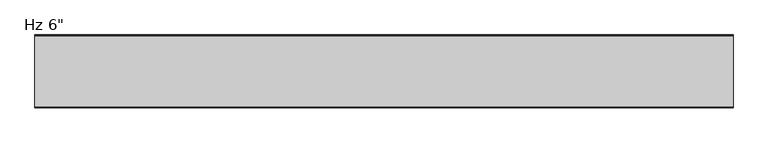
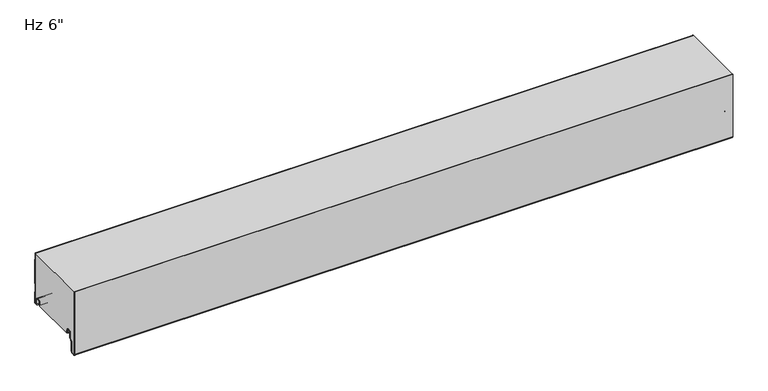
"""IFC4 building model written with IfcOpenShell, lengths in millimetres: plate geometry."""

from ifc_helpers import new_model, si_unit, point, frame, frame_2d, origin, place, context, project, spatial, polyline, circle_curve, trimmed, segment, composite_curve, outline, extrude, source, transform, mapped, element, save
from ifc_brep_helpers import plane_surface, cylinder_surface, revolved_surface, advanced_brep


def plate_e50692ed(model_context):
    return source(origin(), model_context, "Body", "SolidModel", [
        advanced_brep(
        [(-730.0, -17.0015159, 2.0313088), (-730.0, -18.0015191, 1.0313116), (-730.0, -19.0015105, 2.0313088), (-730.0, -19.0015105, 6.0315125), (-730.0, -18.0015159, 6.0315125), (-730.0, -18.0015159, 8.7237223), (-730.0, -14.7015202, 12.023718), (-730.0, -10.301529, 12.023718), (-730.0, -7.0015335, 8.7237225), (-730.0, -7.0015335, -1.6962564), (-730.0, -5.2315393, -3.4662506), (-730.0, -0.9999916, -3.4662506), (-730.0, -0.9999916, 21.034026), (-730.0, -2.2002307, 22.4196686), (-730.0, -2.2002307, 41.7948349), (-730.0, -1.0, 43.1804679), (-730.0, -1.0, 97.2338833), (-730.0, -2.2002307, 98.6195162), (-730.0, -2.2002307, 114.0), (-730.0, -1.2002307, 114.0), (-730.0, -1.2002307, 98.9923967), (-730.0, -0.3417885, 98.001349), (-730.0, 0.0, 97.0847321), (-730.0, 0.0, 43.329619), (-730.0, -0.3417885, 42.4130021), (-730.0, -1.2002307, 41.4219545), (-730.0, -1.2002307, 22.7925491), (-730.0, -0.3417885, 21.8015014), (-730.0, 0.0, 20.8847931), (-730.0, 8.4e-06, -3.0662545), (-730.0, -1.3999878, -4.4662506), (-730.0, -5.2315393, -4.4662506), (-730.0, -8.0015335, -1.6962564), (-730.0, -8.0015335, 8.7237225), (-730.0, -10.301529, 11.023718), (-730.0, -14.7015202, 11.023718), (-730.0, -17.0015159, 8.7237223), (730.0, -17.0015159, 2.0313088), (730.0, -17.0015159, 8.7237223), (730.0, -14.7015202, 11.023718), (730.0, -10.301529, 11.023718), (730.0, -8.0015335, 8.7237225), (730.0, -8.0015335, -1.6962564), (730.0, -5.2315393, -4.4662506), (730.0, -1.3999878, -4.4662506), (730.0, 8.4e-06, -3.0662545), (730.0, 8.4e-06, 20.8848845), (730.0, -0.3417885, 21.8015014), (730.0, -1.2002307, 22.7925491), (730.0, -1.2002307, 41.4219545), (730.0, -0.3417885, 42.4130021), (730.0, 0.0, 43.329619), (730.0, 0.0, 97.0847321), (730.0, -0.3417885, 98.001349), (730.0, -1.2002307, 98.9923967), (730.0, -1.2002307, 114.0), (730.0, -2.2002307, 114.0), (730.0, -2.2002307, 98.6195162), (730.0, -1.0, 97.2338833), (730.0, -1.0, 43.1804679), (730.0, -2.2002307, 41.7948349), (730.0, -2.2002307, 22.4196686), (730.0, -0.9999916, 21.034026), (730.0, -0.9999916, -3.4662506), (730.0, -5.2315393, -3.4662506), (730.0, -7.0015335, -1.6962564), (730.0, -7.0015335, 8.7237225), (730.0, -10.301529, 12.023718), (730.0, -14.7015202, 12.023718), (730.0, -18.0015159, 8.7237223), (730.0, -18.0015159, 6.0315125), (730.0, -19.0015105, 6.0315125), (730.0, -19.0015105, 2.0313088), (730.0, -18.0015192, 1.0313116)],
        [
            (0, 1, circle_curve(frame((-730.0, -18.0015132, 2.0313088), z_axis=(-1.0, 0.0, 0.0), x_axis=(0.0, 0.0, 1.0)), 0.9999973)),
            (1, 2, circle_curve(frame((-730.0, -18.0015133, 2.0313088), z_axis=(-1.0, 0.0, 0.0), x_axis=(0.0, 0.0, 1.0)), 0.9999972)),
            (2, 3),
            (3, 4),
            (4, 5),
            (5, 6, circle_curve(frame((-730.0, -14.7015202, 8.7237223), z_axis=(-1.0, 0.0, 0.0), x_axis=(0.0, 0.0, 1.0)), 3.2999957)),
            (6, 7),
            (7, 8, circle_curve(frame((-730.0, -10.301529, 8.7237225), z_axis=(-1.0, 0.0, 0.0), x_axis=(0.0, 0.0, 1.0)), 3.2999955)),
            (8, 9),
            (9, 10, circle_curve(frame((-730.0, -5.2315393, -1.6962564), z_axis=(1.0, 0.0, 0.0), x_axis=(0.0, 0.0, 1.0)), 1.7699942)),
            (10, 11),
            (11, 12),
            (12, 13),
            (13, 14),
            (14, 15),
            (15, 16),
            (16, 17),
            (17, 18),
            (18, 19),
            (19, 20),
            (20, 21),
            (21, 22, circle_curve(frame((-730.0, -1.3999972, 97.0847321), z_axis=(-1.0, 0.0, 0.0), x_axis=(0.0, 0.0, 1.0)), 1.3999972)),
            (22, 23),
            (23, 24, circle_curve(frame((-730.0, -1.3999972, 43.329619), z_axis=(-1.0, 0.0, 0.0), x_axis=(0.0, 0.0, 1.0)), 1.3999972)),
            (24, 25),
            (25, 26),
            (26, 27),
            (27, 28, circle_curve(frame((-730.0, -1.3999972, 20.8848845), z_axis=(-1.0, 0.0, 0.0), x_axis=(0.0, 0.0, 1.0)), 1.3999972)),
            (28, 29),
            (29, 30, circle_curve(frame((-730.0, -1.3999878, -3.0662545), z_axis=(-1.0, 0.0, 0.0), x_axis=(0.0, 0.0, 1.0)), 1.3999962)),
            (30, 31),
            (31, 32, circle_curve(frame((-730.0, -5.2315393, -1.6962564), z_axis=(-1.0, 0.0, 0.0), x_axis=(0.0, 0.0, 1.0)), 2.7699942)),
            (32, 33),
            (33, 34, circle_curve(frame((-730.0, -10.301529, 8.7237225), z_axis=(1.0, 0.0, 0.0), x_axis=(0.0, 0.0, 1.0)), 2.2999955)),
            (34, 35),
            (35, 36, circle_curve(frame((-730.0, -14.7015202, 8.7237223), z_axis=(1.0, 0.0, 0.0), x_axis=(0.0, 0.0, 1.0)), 2.2999957)),
            (36, 0),
            (37, 38),
            (38, 39, circle_curve(frame((730.0, -14.7015202, 8.7237223), z_axis=(-1.0, 0.0, 0.0), x_axis=(0.0, 0.0, 1.0)), 2.2999957)),
            (39, 40),
            (40, 41, circle_curve(frame((730.0, -10.301529, 8.7237225), z_axis=(-1.0, 0.0, 0.0), x_axis=(0.0, 0.0, 1.0)), 2.2999955)),
            (41, 42),
            (42, 43, circle_curve(frame((730.0, -5.2315393, -1.6962564), z_axis=(1.0, 0.0, 0.0), x_axis=(0.0, 0.0, 1.0)), 2.7699942)),
            (43, 44),
            (44, 45, circle_curve(frame((730.0, -1.3999878, -3.0662545), z_axis=(1.0, 0.0, 0.0), x_axis=(0.0, 0.0, 1.0)), 1.3999962)),
            (45, 46),
            (46, 47, circle_curve(frame((730.0, -1.3999972, 20.8848845), z_axis=(1.0, 0.0, 0.0), x_axis=(0.0, 0.0, 1.0)), 1.3999972)),
            (47, 48),
            (48, 49),
            (49, 50),
            (50, 51, circle_curve(frame((730.0, -1.3999972, 43.329619), z_axis=(1.0, 0.0, 0.0), x_axis=(0.0, 0.0, 1.0)), 1.3999972)),
            (51, 52),
            (52, 53, circle_curve(frame((730.0, -1.3999972, 97.0847321), z_axis=(1.0, 0.0, 0.0), x_axis=(0.0, 0.0, 1.0)), 1.3999972)),
            (53, 54),
            (54, 55),
            (55, 56),
            (56, 57),
            (57, 58),
            (58, 59),
            (59, 60),
            (60, 61),
            (61, 62),
            (62, 63),
            (63, 64),
            (64, 65, circle_curve(frame((730.0, -5.2315393, -1.6962564), z_axis=(-1.0, 0.0, 0.0), x_axis=(0.0, 0.0, 1.0)), 1.7699942)),
            (65, 66),
            (66, 67, circle_curve(frame((730.0, -10.301529, 8.7237225), z_axis=(1.0, 0.0, 0.0), x_axis=(0.0, 0.0, 1.0)), 3.2999955)),
            (67, 68),
            (68, 69, circle_curve(frame((730.0, -14.7015202, 8.7237223), z_axis=(1.0, 0.0, 0.0), x_axis=(0.0, 0.0, 1.0)), 3.2999957)),
            (69, 70),
            (70, 71),
            (71, 72),
            (72, 73, circle_curve(frame((730.0, -18.0015133, 2.0313088), z_axis=(1.0, 0.0, 0.0), x_axis=(0.0, 0.0, 1.0)), 0.9999972)),
            (73, 37, circle_curve(frame((730.0, -18.0015132, 2.0313088), z_axis=(1.0, 0.0, 0.0), x_axis=(0.0, 0.0, 1.0)), 0.9999973)),
            (18, 56),
            (55, 19),
            (36, 38),
            (37, 0),
            (35, 39),
            (34, 40),
            (33, 41),
            (32, 42),
            (31, 43),
            (30, 44),
            (29, 45),
            (28, 46),
            (27, 47),
            (26, 48),
            (25, 49),
            (24, 50),
            (23, 51),
            (22, 52),
            (21, 53),
            (20, 54),
            (17, 57),
            (16, 58),
            (15, 59),
            (14, 60),
            (13, 61),
            (12, 62),
            (11, 63),
            (10, 64),
            (9, 65),
            (8, 66),
            (7, 67),
            (6, 68),
            (5, 69),
            (4, 70),
            (3, 71),
            (2, 72),
            (1, 73),
        ],
        [
            plane_surface(frame((-730.0, 0.0, 381.0), z_axis=(-1.0, 0.0, 0.0), x_axis=(0.0, 1.0, 0.0))),
            plane_surface(frame((730.0, 0.0, 381.0), z_axis=(1.0, 0.0, 0.0), x_axis=(0.0, 1.0, 0.0))),
            plane_surface(frame((730.0, 10.0, 114.0), z_axis=(0.0, 0.0, 1.0), x_axis=(-1.0, 0.0, 0.0))),
            plane_surface(frame((-730.0, -17.0015159, 2.0313088), z_axis=(0.0, 1.0, 0.0), x_axis=(1.0, 0.0, 0.0))),
            revolved_surface(polyline([(730.0, -14.7015202, 11.023718), (-730.0, -14.7015202, 11.023718)]), (-730.0, -14.7015202, 8.7237223), (1.0, 0.0, 0.0)),
            plane_surface(frame((-730.0, -14.7015202, 11.023718), z_axis=(0.0, 0.0, -1.0), x_axis=(1.0, 0.0, 0.0))),
            revolved_surface(polyline([(730.0, -10.301529, 11.023717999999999), (-730.0, -10.301529, 11.023717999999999)]), (-730.0, -10.301529, 8.7237225), (1.0, 0.0, 0.0)),
            plane_surface(frame((-730.0, -8.0015335, 8.7237225), z_axis=(0.0, -1.0, 0.0), x_axis=(1.0, 0.0, 0.0))),
            cylinder_surface(frame((-730.0, -5.2315393, -1.6962564), z_axis=(-1.0, 0.0, 0.0), x_axis=(0.0, 0.0, 1.0)), 2.7699942),
            plane_surface(frame((-730.0, -5.2315393, -4.4662506), z_axis=(0.0, 0.0, -1.0), x_axis=(1.0, 0.0, 0.0))),
            cylinder_surface(frame((-730.0, -1.3999878, -3.0662545), z_axis=(-1.0, 0.0, 0.0), x_axis=(0.0, 0.0, 1.0)), 1.3999962),
            plane_surface(frame((-730.0, 8.4e-06, -3.0662545), z_axis=(0.0, 1.0, 0.0), x_axis=(1.0, 0.0, 0.0))),
            cylinder_surface(frame((-730.0, -1.3999972, 20.8848845), z_axis=(-1.0, 0.0, 0.0), x_axis=(0.0, 0.0, 1.0)), 1.3999972),
            plane_surface(frame((-730.0, -0.3417885, 21.8015014), z_axis=(0.0, 0.755864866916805, 0.6547276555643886), x_axis=(1.0, 0.0, 0.0))),
            plane_surface(frame((-730.0, -1.2002307, 32.1072518), z_axis=(0.0, 1.0, 0.0), x_axis=(1.0, 0.0, 0.0))),
            plane_surface(frame((-730.0, -1.2002307, 41.4219545), z_axis=(0.0, 0.755864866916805, -0.6547276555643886), x_axis=(1.0, 0.0, 0.0))),
            cylinder_surface(frame((-730.0, -1.3999972, 43.329619), z_axis=(-1.0, 0.0, 0.0), x_axis=(0.0, 0.0, 1.0)), 1.3999972),
            plane_surface(frame((-730.0, 0.0, 43.329619), z_axis=(0.0, 1.0, 0.0), x_axis=(1.0, 0.0, 0.0))),
            cylinder_surface(frame((-730.0, -1.3999972, 97.0847321), z_axis=(-1.0, 0.0, 0.0), x_axis=(0.0, 0.0, 1.0)), 1.3999972),
            plane_surface(frame((-730.0, -0.3417885, 98.001349), z_axis=(0.0, 0.755864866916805, 0.6547276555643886), x_axis=(1.0, 0.0, 0.0))),
            plane_surface(frame((-730.0, -1.2002307, 108.3070994), z_axis=(0.0, 1.0, 0.0), x_axis=(1.0, 0.0, 0.0))),
            plane_surface(frame((-730.0, -2.2002307, 117.9946825), z_axis=(0.0, -1.0, 0.0), x_axis=(1.0, 0.0, 0.0))),
            plane_surface(frame((-730.0, -2.2002307, 98.6195162), z_axis=(0.0, -0.755864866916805, -0.6547276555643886), x_axis=(1.0, 0.0, 0.0))),
            plane_surface(frame((-730.0, -1.0, 97.2338833), z_axis=(0.0, -1.0, 0.0), x_axis=(1.0, 0.0, 0.0))),
            plane_surface(frame((-730.0, -1.0, 43.1804679), z_axis=(0.0, -0.755864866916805, 0.6547276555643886), x_axis=(1.0, 0.0, 0.0))),
            plane_surface(frame((-730.0, -2.2002307, 41.7948349), z_axis=(0.0, -1.0, 0.0), x_axis=(1.0, 0.0, 0.0))),
            plane_surface(frame((-730.0, -2.2002307, 22.4196686), z_axis=(0.0, -0.755864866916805, -0.6547276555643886), x_axis=(1.0, 0.0, 0.0))),
            plane_surface(frame((-730.0, -0.9999916, 21.034026), z_axis=(0.0, -1.0, 0.0), x_axis=(1.0, 0.0, 0.0))),
            plane_surface(frame((-730.0, -0.9999916, -3.4662506), z_axis=(0.0, 0.0, 1.0), x_axis=(1.0, 0.0, 0.0))),
            revolved_surface(polyline([(730.0, -5.2315393, 0.07373779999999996), (-730.0, -5.2315393, 0.07373779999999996)]), (-730.0, -5.2315393, -1.6962564), (1.0, 0.0, 0.0)),
            plane_surface(frame((-730.0, -7.0015335, -1.6962564), z_axis=(0.0, 1.0, 0.0), x_axis=(1.0, 0.0, 0.0))),
            cylinder_surface(frame((-730.0, -10.301529, 8.7237225), z_axis=(-1.0, 0.0, 0.0), x_axis=(0.0, 0.0, 1.0)), 3.2999955),
            plane_surface(frame((-730.0, -10.301529, 12.023718), z_axis=(0.0, 0.0, 1.0), x_axis=(1.0, 0.0, 0.0))),
            cylinder_surface(frame((-730.0, -14.7015202, 8.7237223), z_axis=(-1.0, 0.0, 0.0), x_axis=(0.0, 0.0, 1.0)), 3.2999957),
            plane_surface(frame((-730.0, -18.0015159, 8.7237223), z_axis=(0.0, -1.0, 0.0), x_axis=(1.0, 0.0, 0.0))),
            plane_surface(frame((-730.0, -18.0015159, 6.0315125), z_axis=(0.0, 0.0, 1.0), x_axis=(1.0, 0.0, 0.0))),
            plane_surface(frame((-730.0, -19.0015105, 6.0315125), z_axis=(0.0, -1.0, 0.0), x_axis=(1.0, 0.0, 0.0))),
            cylinder_surface(frame((-730.0, -18.0015133, 2.0313088), z_axis=(-1.0, 0.0, 0.0), x_axis=(0.0, 0.0, 1.0)), 0.9999972),
            cylinder_surface(frame((-730.0, -18.0015132, 2.0313088), z_axis=(-1.0, 0.0, 0.0), x_axis=(0.0, 0.0, 1.0)), 0.9999973),
        ],
        [
            (0, [[1, 2, 3, 4, 5, 6, 7, 8, 9, 10, 11, 12, 13, 14, 15, 16, 17, 18, 19, 20, 21, 22, 23, 24, 25, 26, 27, 28, 29, 30, 31, 32, 33, 34, 35, 36, 37]]),
            (1, [[38, 39, 40, 41, 42, 43, 44, 45, 46, 47, 48, 49, 50, 51, 52, 53, 54, 55, 56, 57, 58, 59, 60, 61, 62, 63, 64, 65, 66, 67, 68, 69, 70, 71, 72, 73, 74]]),
            (2, [[75, -56, 76, -19]]),
            (3, [[77, -38, 78, -37]]),
            (4, [[79, -39, -77, -36]]),
            (5, [[80, -40, -79, -35]]),
            (6, [[81, -41, -80, -34]]),
            (7, [[82, -42, -81, -33]]),
            (8, [[83, -43, -82, -32]]),
            (9, [[84, -44, -83, -31]]),
            (10, [[85, -45, -84, -30]]),
            (11, [[86, -46, -85, -29]]),
            (12, [[87, -47, -86, -28]]),
            (13, [[88, -48, -87, -27]]),
            (14, [[89, -49, -88, -26]]),
            (15, [[90, -50, -89, -25]]),
            (16, [[91, -51, -90, -24]]),
            (17, [[92, -52, -91, -23]]),
            (18, [[93, -53, -92, -22]]),
            (19, [[94, -54, -93, -21]]),
            (20, [[-20, -76, -55, -94]]),
            (21, [[-57, -75, -18, 95]]),
            (22, [[96, -58, -95, -17]]),
            (23, [[97, -59, -96, -16]]),
            (24, [[98, -60, -97, -15]]),
            (25, [[99, -61, -98, -14]]),
            (26, [[100, -62, -99, -13]]),
            (27, [[101, -63, -100, -12]]),
            (28, [[102, -64, -101, -11]]),
            (29, [[103, -65, -102, -10]]),
            (30, [[104, -66, -103, -9]]),
            (31, [[105, -67, -104, -8]]),
            (32, [[106, -68, -105, -7]]),
            (33, [[107, -69, -106, -6]]),
            (34, [[108, -70, -107, -5]]),
            (35, [[109, -71, -108, -4]]),
            (36, [[110, -72, -109, -3]]),
            (37, [[111, -73, -110, -2]]),
            (38, [[-78, -74, -111, -1]]),
        ],
    ),
        extrude(outline(composite_curve([segment(trimmed(circle_curve(frame_2d((-148.8296795, -32.4521105)), 3.5702393), [point((-148.5184091, -36.0087549))], [point((-152.3999188, -32.4521083))], False, "CARTESIAN"), True, "CONTINUOUS"), segment(polyline([(-152.3999188, -32.4521083), (-152.3998251, 114.0), (-151.3993606, 114.0), (-151.3993606, -32.509446)]), True, "CONTINUOUS"), segment(trimmed(circle_curve(frame_2d((-148.8297607, -32.4521176)), 2.5702393), [point((-151.3993606, -32.509446))], [point((-148.6056751, -35.0125699))], True, "CARTESIAN"), True, "CONTINUOUS"), segment(polyline([(-148.6056751, -35.0125699), (-143.6238542, -34.5765709)]), True, "CONTINUOUS"), segment(trimmed(circle_curve(frame_2d((-144.1052448, -31.9198392)), 2.6999926), [point((-143.6238542, -34.5765709))], [point((-141.4052522, -31.9198392))], True, "CARTESIAN"), True, "CONTINUOUS"), segment(polyline([(-141.4052522, -31.9198392), (-141.4052522, -9.8247096), (-135.9031811, -4.3226385)]), True, "CONTINUOUS"), segment(trimmed(circle_curve(frame_2d((-137.1052588, -3.1205608)), 1.6999946), [point((-135.9031811, -4.3226385))], [point((-135.4052642, -3.1205608))], True, "CARTESIAN"), True, "CONTINUOUS"), segment(polyline([(-135.4052642, -3.1205608), (-135.4052642, 8.6903283)]), True, "CONTINUOUS"), segment(trimmed(circle_curve(frame_2d((-132.0552689, 8.6903283)), 3.3499953), [point((-135.4052642, 8.6903283))], [point((-132.0552689, 12.0403236))], False, "CARTESIAN"), True, "CONTINUOUS"), segment(polyline([(-132.0552689, 12.0403236), (-127.6552777, 12.0403236)]), True, "CONTINUOUS"), segment(trimmed(circle_curve(frame_2d((-127.6552777, 8.6903283)), 3.3499953), [point((-127.6552777, 12.0403236))], [point((-124.3052824, 8.6903283))], False, "CARTESIAN"), True, "CONTINUOUS"), segment(polyline([(-124.3052824, 8.6903283), (-124.3052824, 5.9912173), (-122.9068035, 5.9912173), (-122.9068035, 2.2328239)]), True, "CONTINUOUS"), segment(trimmed(circle_curve(frame_2d((-124.1068002, 2.2313092)), 1.1999976), [point((-122.9068035, 2.2328239))], [point((-124.0762782, 1.0316999))], False, "CARTESIAN"), True, "CONTINUOUS"), segment(trimmed(circle_curve(frame_2d((-124.1068002, 2.2313092)), 1.1999976), [point((-124.0762782, 1.0316999))], [point((-125.3052824, 2.1710221))], False, "CARTESIAN"), True, "CONTINUOUS"), segment(polyline([(-125.3052824, 2.1710221), (-125.3052824, 8.6903283)]), True, "CONTINUOUS"), segment(trimmed(circle_curve(frame_2d((-127.6552777, 8.6903283)), 2.3499953), [point((-125.3052824, 8.6903283))], [point((-127.6552777, 11.0403236))], True, "CARTESIAN"), True, "CONTINUOUS"), segment(polyline([(-127.6552777, 11.0403236), (-132.0552689, 11.0403236)]), True, "CONTINUOUS"), segment(trimmed(circle_curve(frame_2d((-132.0552689, 8.6903283)), 2.3499953), [point((-132.0552689, 11.0403236))], [point((-134.4052642, 8.6903283))], True, "CARTESIAN"), True, "CONTINUOUS"), segment(polyline([(-134.4052642, 8.6903283), (-134.4052642, -3.1205608)]), True, "CONTINUOUS"), segment(trimmed(circle_curve(frame_2d((-137.1052588, -3.1205608)), 2.6999946), [point((-134.4052642, -3.1205608))], [point((-135.1960743, -5.0297453))], False, "CARTESIAN"), True, "CONTINUOUS"), segment(polyline([(-135.1960743, -5.0297453), (-140.0244918, -9.8581627)]), True, "CONTINUOUS"), segment(trimmed(circle_curve(frame_2d((-139.1052548, -10.7773997)), 1.2999974), [point((-140.0244918, -9.8581627))], [point((-140.4052522, -10.7773997))], True, "CARTESIAN"), True, "CONTINUOUS"), segment(polyline([(-140.4052522, -10.7773997), (-140.4052522, -31.9198392)]), True, "CONTINUOUS"), segment(trimmed(circle_curve(frame_2d((-144.1052448, -31.9198392)), 3.6999926), [point((-140.4052522, -31.9198392))], [point((-143.4944437, -35.5690675))], False, "CARTESIAN"), True, "CONTINUOUS"), segment(polyline([(-143.4944437, -35.5690675), (-148.5184091, -36.0087549)]), True, "CONTINUOUS")], self_intersect=False)), frame((-730.0, 0.0, 0.0), z_axis=(1.0, 0.0, 0.0), x_axis=(0.0, 1.0, 0.0)), (0.0, 0.0, 1.0), 1460.0),
        advanced_brep(
        [(-730.0, -124.070875, 1.0316999), (-730.0, -122.9014003, 2.2328239), (-730.0, -122.9014003, 5.9912173), (-730.0, -124.2998791, 5.9912173), (-730.0, -124.2998791, 8.6903283), (-730.0, -127.6498744, 12.0403236), (-730.0, -132.0498656, 12.0403236), (-730.0, -135.3998609, 8.6903283), (-730.0, -135.3998609, -3.1205608), (-730.0, -135.8977778, -4.3226385), (-730.0, -141.3998489, -9.8247096), (-730.0, -141.3998489, -31.9198392), (-730.0, -143.6184509, -34.5765709), (-730.0, -148.6002718, -35.0125699), (-730.0, -151.3945967, -32.4521176), (-730.0, -151.4, 114.0), (-730.0, -2.2002307, 114.0), (-730.0, -2.2002307, 98.6195163), (-730.0, -1.0, 97.2338833), (-730.0, -1.0, 43.1804679), (-730.0, -2.2002307, 41.794835), (-730.0, -2.2002307, 22.4196687), (-730.0, -0.9999916, 21.034026), (-730.0, -0.9999916, -3.4662506), (-730.0, -5.2315389, -3.4662506), (-730.0, -7.0015331, -1.6962564), (-730.0, -7.0015331, 8.7237222), (-730.0, -10.301529, 12.023718), (-730.0, -14.7015202, 12.023718), (-730.0, -18.0015159, 8.7237223), (-730.0, -18.0015159, 6.0315125), (-730.0, -19.0015105, 6.0315125), (-730.0, -19.0015105, 2.0313089), (-730.0, -18.0015192, 1.0313117), (-730.0, -19.0328308, 0.0), (-730.0, -123.0391751, 0.0), (730.0, -124.070875, 1.0316999), (730.0, -123.0391751, 0.0), (730.0, -19.0328308, 0.0), (730.0, -18.0015192, 1.0313117), (730.0, -19.0015105, 2.0313089), (730.0, -19.0015105, 6.0315125), (730.0, -18.0015159, 6.0315125), (730.0, -18.0015159, 8.7237223), (730.0, -14.7015202, 12.023718), (730.0, -10.301529, 12.023718), (730.0, -7.0015331, 8.7237222), (730.0, -7.0015331, -1.6962564), (730.0, -5.2315389, -3.4662506), (730.0, -0.9999916, -3.4662506), (730.0, -0.9999916, 21.034026), (730.0, -2.2002307, 22.4196687), (730.0, -2.2002307, 41.794835), (730.0, -1.0, 43.1804679), (730.0, -1.0, 97.2338833), (730.0, -2.2002307, 98.6195163), (730.0, -2.2002307, 114.0), (730.0, -151.4, 114.0), (730.0, -151.4, -32.4521176), (730.0, -148.6002718, -35.0125699), (730.0, -143.6184509, -34.5765709), (730.0, -141.3998489, -31.9198392), (730.0, -141.3998489, -9.8247096), (730.0, -135.8977778, -4.3226385), (730.0, -135.3998609, -3.1205608), (730.0, -135.3998609, 8.6903283), (730.0, -132.0498656, 12.0403236), (730.0, -127.6498744, 12.0403236), (730.0, -124.2998791, 8.6903283), (730.0, -124.2998791, 5.9912173), (730.0, -122.9014003, 5.9912173), (730.0, -122.9014003, 2.2328239)],
        [
            (0, 1, circle_curve(frame((-730.0, -124.1013969, 2.2313092), z_axis=(1.0, 0.0, 0.0), x_axis=(0.0, 0.0, -1.0)), 1.1999976)),
            (1, 2),
            (2, 3),
            (3, 4),
            (4, 5, circle_curve(frame((-730.0, -127.6498744, 8.6903283), z_axis=(1.0, 0.0, 0.0), x_axis=(0.0, 0.0, -1.0)), 3.3499953)),
            (5, 6),
            (6, 7, circle_curve(frame((-730.0, -132.0498656, 8.6903283), z_axis=(1.0, 0.0, 0.0), x_axis=(0.0, 0.0, -1.0)), 3.3499953)),
            (7, 8),
            (8, 9, circle_curve(frame((-730.0, -137.0998555, -3.1205608), z_axis=(-1.0, 0.0, 0.0), x_axis=(0.0, 0.0, -1.0)), 1.6999946)),
            (9, 10),
            (10, 11),
            (11, 12, circle_curve(frame((-730.0, -144.0998415, -31.9198392), z_axis=(-1.0, 0.0, 0.0), x_axis=(0.0, 0.0, -1.0)), 2.6999926)),
            (12, 13),
            (13, 14, circle_curve(frame((-730.0, -148.8243575, -32.4521176), z_axis=(-1.0, 0.0, 0.0), x_axis=(0.0, 0.0, -1.0)), 2.5702393)),
            (14, 15),
            (15, 16),
            (16, 17),
            (17, 18),
            (18, 19),
            (19, 20),
            (20, 21),
            (21, 22),
            (22, 23),
            (23, 24),
            (24, 25, circle_curve(frame((-730.0, -5.2315389, -1.6962564), z_axis=(-1.0, 0.0, 0.0), x_axis=(0.0, 0.0, 1.0)), 1.7699942)),
            (25, 26),
            (26, 27, circle_curve(frame((-730.0, -10.301529, 8.7237222), z_axis=(1.0, 0.0, 0.0), x_axis=(0.0, 0.0, 1.0)), 3.2999959)),
            (27, 28),
            (28, 29, circle_curve(frame((-730.0, -14.7015202, 8.7237223), z_axis=(1.0, 0.0, 0.0), x_axis=(0.0, 0.0, 1.0)), 3.2999957)),
            (29, 30),
            (30, 31),
            (31, 32),
            (32, 33, circle_curve(frame((-730.0, -18.0015133, 2.0313089), z_axis=(1.0, 0.0, 0.0), x_axis=(0.0, 0.0, 1.0)), 0.9999972)),
            (33, 34),
            (34, 35),
            (35, 0),
            (36, 37),
            (37, 38),
            (38, 39),
            (39, 40, circle_curve(frame((730.0, -18.0015133, 2.0313089), z_axis=(-1.0, 0.0, 0.0), x_axis=(0.0, 0.0, 1.0)), 0.9999972)),
            (40, 41),
            (41, 42),
            (42, 43),
            (43, 44, circle_curve(frame((730.0, -14.7015202, 8.7237223), z_axis=(-1.0, 0.0, 0.0), x_axis=(0.0, 0.0, 1.0)), 3.2999957)),
            (44, 45),
            (45, 46, circle_curve(frame((730.0, -10.301529, 8.7237222), z_axis=(-1.0, 0.0, 0.0), x_axis=(0.0, 0.0, 1.0)), 3.2999959)),
            (46, 47),
            (47, 48, circle_curve(frame((730.0, -5.2315389, -1.6962564), z_axis=(1.0, 0.0, 0.0), x_axis=(0.0, 0.0, 1.0)), 1.7699942)),
            (48, 49),
            (49, 50),
            (50, 51),
            (51, 52),
            (52, 53),
            (53, 54),
            (54, 55),
            (55, 56),
            (56, 57),
            (57, 58),
            (58, 59, circle_curve(frame((730.0, -148.8243575, -32.4521176), z_axis=(1.0, 0.0, 0.0), x_axis=(0.0, 0.0, -1.0)), 2.5702393)),
            (59, 60),
            (60, 61, circle_curve(frame((730.0, -144.0998415, -31.9198392), z_axis=(1.0, 0.0, 0.0), x_axis=(0.0, 0.0, -1.0)), 2.6999926)),
            (61, 62),
            (62, 63),
            (63, 64, circle_curve(frame((730.0, -137.0998555, -3.1205608), z_axis=(1.0, 0.0, 0.0), x_axis=(0.0, 0.0, -1.0)), 1.6999946)),
            (64, 65),
            (65, 66, circle_curve(frame((730.0, -132.0498656, 8.6903283), z_axis=(-1.0, 0.0, 0.0), x_axis=(0.0, 0.0, -1.0)), 3.3499953)),
            (66, 67),
            (67, 68, circle_curve(frame((730.0, -127.6498744, 8.6903283), z_axis=(-1.0, 0.0, 0.0), x_axis=(0.0, 0.0, -1.0)), 3.3499953)),
            (68, 69),
            (69, 70),
            (70, 71),
            (71, 36, circle_curve(frame((730.0, -124.1013969, 2.2313092), z_axis=(-1.0, 0.0, 0.0), x_axis=(0.0, 0.0, -1.0)), 1.1999976)),
            (35, 37),
            (36, 0),
            (34, 38),
            (57, 15),
            (14, 58),
            (13, 59),
            (12, 60),
            (11, 61),
            (10, 62),
            (9, 63),
            (8, 64),
            (7, 65),
            (6, 66),
            (5, 67),
            (4, 68),
            (3, 69),
            (2, 70),
            (1, 71),
            (56, 16),
            (33, 39),
            (32, 40),
            (31, 41),
            (30, 42),
            (29, 43),
            (28, 44),
            (27, 45),
            (26, 46),
            (25, 47),
            (24, 48),
            (23, 49),
            (22, 50),
            (21, 51),
            (20, 52),
            (19, 53),
            (18, 54),
            (17, 55),
        ],
        [
            plane_surface(frame((-730.0, -151.4, 381.0), z_axis=(-1.0, 0.0, 0.0), x_axis=(0.0, -1.0, 0.0))),
            plane_surface(frame((730.0, -151.4, 381.0), z_axis=(1.0, 0.0, 0.0), x_axis=(0.0, -1.0, 0.0))),
            plane_surface(frame((-730.0, -124.070875, 1.0316999), z_axis=(0.0, -0.7071067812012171, -0.707106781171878), x_axis=(1.0, 0.0, 0.0))),
            plane_surface(frame((-730.0, -123.0391751, 0.0), z_axis=(0.0, 0.0, -1.0), x_axis=(1.0, 0.0, 0.0))),
            plane_surface(frame((-730.0, -151.4, 713.515622), z_axis=(0.0, -1.0, 0.0), x_axis=(1.0, 0.0, 0.0))),
            cylinder_surface(frame((-730.0, -148.8243575, -32.4521176), z_axis=(-1.0, 0.0, 0.0), x_axis=(0.0, 0.0, -1.0)), 2.5702393),
            plane_surface(frame((-730.0, -148.6002718, -35.0125699), z_axis=(0.0, 0.08718474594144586, -0.9961921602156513), x_axis=(1.0, 0.0, 0.0))),
            cylinder_surface(frame((-730.0, -144.0998415, -31.9198392), z_axis=(-1.0, 0.0, 0.0), x_axis=(0.0, 0.0, -1.0)), 2.6999926),
            plane_surface(frame((-730.0, -141.3998489, -31.9198392), z_axis=(0.0, 1.0, 0.0), x_axis=(1.0, 0.0, 0.0))),
            plane_surface(frame((-730.0, -141.3998489, -9.8247096), z_axis=(0.0, 0.7071067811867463, -0.7071067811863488), x_axis=(1.0, 0.0, 0.0))),
            cylinder_surface(frame((-730.0, -137.0998555, -3.1205608), z_axis=(-1.0, 0.0, 0.0), x_axis=(0.0, 0.0, -1.0)), 1.6999946),
            plane_surface(frame((-730.0, -135.3998609, -3.1205608), z_axis=(0.0, 1.0, 0.0), x_axis=(1.0, 0.0, 0.0))),
            revolved_surface(polyline([(730.0, -132.0498656, 5.340332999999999), (-730.0, -132.0498656, 5.340332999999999)]), (-730.0, -132.0498656, 8.6903283), (1.0, 0.0, 0.0)),
            plane_surface(frame((-730.0, -132.0498656, 12.0403236), z_axis=(0.0, 0.0, -1.0), x_axis=(1.0, 0.0, 0.0))),
            revolved_surface(polyline([(730.0, -127.6498744, 5.340332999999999), (-730.0, -127.6498744, 5.340332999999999)]), (-730.0, -127.6498744, 8.6903283), (1.0, 0.0, 0.0)),
            plane_surface(frame((-730.0, -124.2998791, 8.6903283), z_axis=(0.0, -1.0, 0.0), x_axis=(1.0, 0.0, 0.0))),
            plane_surface(frame((-730.0, -124.2998791, 5.9912173), z_axis=(0.0, 0.0, -1.0), x_axis=(1.0, 0.0, 0.0))),
            plane_surface(frame((-730.0, -122.9014003, 5.9912173), z_axis=(0.0, -1.0, 0.0), x_axis=(1.0, 0.0, 0.0))),
            revolved_surface(polyline([(730.0, -124.1013969, 1.0313116), (-730.0, -124.1013969, 1.0313116)]), (-730.0, -124.1013969, 2.2313092), (1.0, 0.0, 0.0)),
            plane_surface(frame((730.0, 10.0, 114.0), z_axis=(0.0, 0.0, 1.0), x_axis=(-1.0, 0.0, 0.0))),
            plane_surface(frame((-730.0, -19.0328308, 0.0), z_axis=(0.0, 0.7071067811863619, -0.7071067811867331), x_axis=(1.0, 0.0, 0.0))),
            revolved_surface(polyline([(730.0, -18.0015133, 3.0313061), (-730.0, -18.0015133, 3.0313061)]), (-730.0, -18.0015133, 2.0313089), (1.0, 0.0, 0.0)),
            plane_surface(frame((-730.0, -19.0015105, 2.0313089), z_axis=(0.0, 1.0, 0.0), x_axis=(1.0, 0.0, 0.0))),
            plane_surface(frame((-730.0, -19.0015105, 6.0315125), z_axis=(0.0, 0.0, -1.0), x_axis=(1.0, 0.0, 0.0))),
            plane_surface(frame((-730.0, -18.0015159, 6.0315125), z_axis=(0.0, 1.0, 0.0), x_axis=(1.0, 0.0, 0.0))),
            revolved_surface(polyline([(730.0, -14.7015202, 12.023718), (-730.0, -14.7015202, 12.023718)]), (-730.0, -14.7015202, 8.7237223), (1.0, 0.0, 0.0)),
            plane_surface(frame((-730.0, -14.7015202, 12.023718), z_axis=(0.0, 0.0, -1.0), x_axis=(1.0, 0.0, 0.0))),
            revolved_surface(polyline([(730.0, -10.301529, 12.0237181), (-730.0, -10.301529, 12.0237181)]), (-730.0, -10.301529, 8.7237222), (1.0, 0.0, 0.0)),
            plane_surface(frame((-730.0, -7.0015331, 8.7237222), z_axis=(0.0, -1.0, 0.0), x_axis=(1.0, 0.0, 0.0))),
            cylinder_surface(frame((-730.0, -5.2315389, -1.6962564), z_axis=(-1.0, 0.0, 0.0), x_axis=(0.0, 0.0, 1.0)), 1.7699942),
            plane_surface(frame((-730.0, -5.2315389, -3.4662506), z_axis=(0.0, 0.0, -1.0), x_axis=(1.0, 0.0, 0.0))),
            plane_surface(frame((-730.0, -0.9999916, -3.4662506), z_axis=(0.0, 1.0, 0.0), x_axis=(1.0, 0.0, 0.0))),
            plane_surface(frame((-730.0, -0.9999916, 21.034026), z_axis=(0.0, 0.7558648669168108, 0.6547276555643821), x_axis=(1.0, 0.0, 0.0))),
            plane_surface(frame((-730.0, -2.2002307, 22.4196687), z_axis=(0.0, 1.0, 0.0), x_axis=(1.0, 0.0, 0.0))),
            plane_surface(frame((-730.0, -2.2002307, 41.794835), z_axis=(0.0, 0.7558648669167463, -0.6547276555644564), x_axis=(1.0, 0.0, 0.0))),
            plane_surface(frame((-730.0, -1.0, 43.1804679), z_axis=(0.0, 1.0, 0.0), x_axis=(1.0, 0.0, 0.0))),
            plane_surface(frame((-730.0, -1.0, 97.2338833), z_axis=(0.0, 0.7558648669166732, 0.6547276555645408), x_axis=(1.0, 0.0, 0.0))),
            plane_surface(frame((-730.0, -2.2002307, 98.6195163), z_axis=(0.0, 1.0, 0.0), x_axis=(1.0, 0.0, 0.0))),
        ],
        [
            (0, [[1, 2, 3, 4, 5, 6, 7, 8, 9, 10, 11, 12, 13, 14, 15, 16, 17, 18, 19, 20, 21, 22, 23, 24, 25, 26, 27, 28, 29, 30, 31, 32, 33, 34, 35, 36]]),
            (1, [[37, 38, 39, 40, 41, 42, 43, 44, 45, 46, 47, 48, 49, 50, 51, 52, 53, 54, 55, 56, 57, 58, 59, 60, 61, 62, 63, 64, 65, 66, 67, 68, 69, 70, 71, 72]]),
            (2, [[73, -37, 74, -36]]),
            (3, [[-35, 75, -38, -73]]),
            (4, [[-58, 76, -15, 77]]),
            (5, [[78, -59, -77, -14]]),
            (6, [[79, -60, -78, -13]]),
            (7, [[80, -61, -79, -12]]),
            (8, [[81, -62, -80, -11]]),
            (9, [[82, -63, -81, -10]]),
            (10, [[83, -64, -82, -9]]),
            (11, [[84, -65, -83, -8]]),
            (12, [[85, -66, -84, -7]]),
            (13, [[86, -67, -85, -6]]),
            (14, [[87, -68, -86, -5]]),
            (15, [[88, -69, -87, -4]]),
            (16, [[89, -70, -88, -3]]),
            (17, [[90, -71, -89, -2]]),
            (18, [[-74, -72, -90, -1]]),
            (19, [[-76, -57, 91, -16]]),
            (20, [[92, -39, -75, -34]]),
            (21, [[93, -40, -92, -33]]),
            (22, [[94, -41, -93, -32]]),
            (23, [[95, -42, -94, -31]]),
            (24, [[96, -43, -95, -30]]),
            (25, [[97, -44, -96, -29]]),
            (26, [[98, -45, -97, -28]]),
            (27, [[99, -46, -98, -27]]),
            (28, [[100, -47, -99, -26]]),
            (29, [[101, -48, -100, -25]]),
            (30, [[102, -49, -101, -24]]),
            (31, [[103, -50, -102, -23]]),
            (32, [[104, -51, -103, -22]]),
            (33, [[105, -52, -104, -21]]),
            (34, [[106, -53, -105, -20]]),
            (35, [[107, -54, -106, -19]]),
            (36, [[108, -55, -107, -18]]),
            (37, [[-17, -91, -56, -108]]),
        ],
    ),
    ])


if __name__ == "__main__":
    model = new_model("IFC4")
    model_context = context("Model", 3, world=origin())
    ifc_project = project(units=[si_unit("LENGTHUNIT", "METRE", prefix="MILLI")], contexts=[model_context])
    site = spatial("IfcSite", under=ifc_project)
    building = spatial("IfcBuilding", under=site)
    placement = place(None, origin())
    plate_shape = plate_e50692ed(model_context)
    element("IfcPlate", 1, ObjectType="KIP-30-Karrier-KP-R19-CP-Hz-FL3-8in_SL : Hz 6\"", at=placement, inside=building, context=model_context, shape_type="MappedRepresentation", body=[
        mapped(plate_shape, transform((0.0, 0.0, 0.0), x_axis=(1.0, 0.0, 0.0), y_axis=(0.0, 1.0, 0.0), z_axis=(0.0, 0.0, 1.0))),
    ])
    save(model, "model.ifc")
